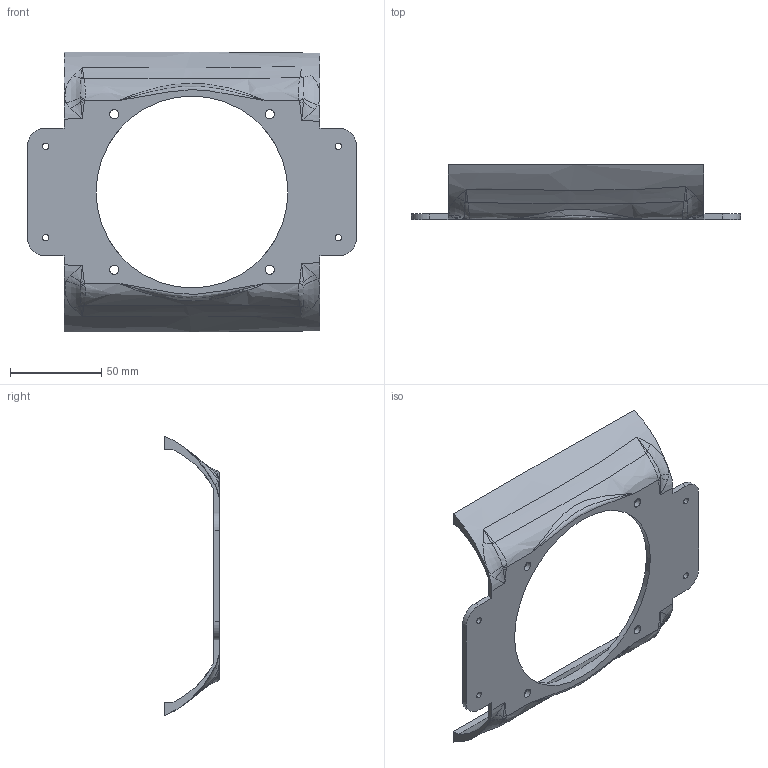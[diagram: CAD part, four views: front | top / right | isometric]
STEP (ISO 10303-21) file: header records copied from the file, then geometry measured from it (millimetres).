
FILE_DESCRIPTION((''),'2;1');
FILE_NAME('VTBIRD-FUSELAGEMODULE02','2020-05-28T',('Administrator'),(''),'PRO/ENGINEER BY PARAMETRIC TECHNOLOGY CORPORATION, 2007170','PRO/ENGINEER BY PARAMETRIC TECHNOLOGY CORPORATION, 2007170','');
FILE_SCHEMA(('CONFIG_CONTROL_DESIGN'));
Length unit declared in the file: millimetre
Products named in the file (1): VTBIRD-FUSELAGEMODULE02
Bounding box: 180 x 30 x 153.03 mm (x, y, z)
Volume: 68868.3 mm3; surface area: 41615.3 mm2
Topology: 1 solids, 1 shells, 103 faces, 267 edges, 166 vertices
Faces by surface type: bspline 52, plane 25, cylinder 24, extrusion 2
Entity records: 5842 total; most frequent: CARTESIAN_POINT 3586, ORIENTED_EDGE 534, DIRECTION 353, EDGE_CURVE 267, VERTEX_POINT 166, AXIS2_PLACEMENT_3D 130, EDGE_LOOP 121, FACE_OUTER_BOUND 103
